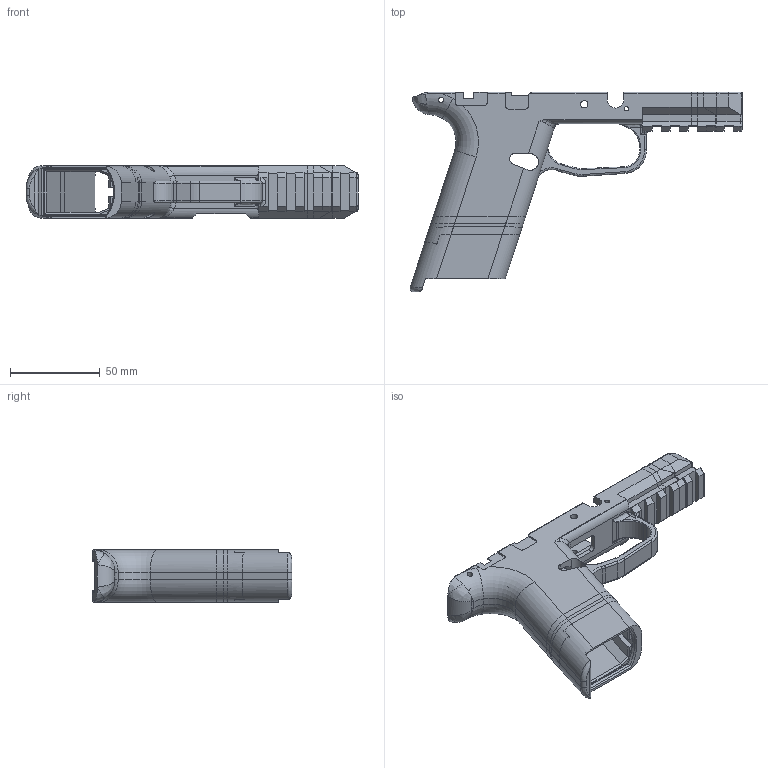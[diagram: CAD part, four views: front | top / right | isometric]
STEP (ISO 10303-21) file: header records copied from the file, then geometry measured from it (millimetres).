
FILE_DESCRIPTION(/* description */ (''),/* implementation_level */ '2;1');
FILE_NAME(/* name */ 'G:/Developer/Repos/TMS-FNS/Beta Tester Remixes/nguyenkvvn/FNS +Safety Assembly.step',/* time_stamp */ '2021-06-16T23:06:52-04:00',/* author */ (''),/* organization */ (''),/* preprocessor_version */ 'ST-DEVELOPER v18.1',/* originating_system */ 'Autodesk Translation Framework v10.9.0.1377',/* authorisation */ '');
FILE_SCHEMA (('AUTOMOTIVE_DESIGN { 1 0 10303 214 3 1 1 }'));
Length unit declared in the file: millimetre
Products named in the file (6): FNS-9/40 - Safety; Main Frame; Compact Size Grip; Standard Size Grip; Standard Size Grip (Stopgap); Compact Size Grip (Stopgap)
Assembly tree (5 placements, depth 2):
  FNS-9/40 - Safety
    Main Frame
    Compact Size Grip
    Standard Size Grip
    Standard Size Grip (Stopgap)
    Compact Size Grip (Stopgap)
Bounding box: 184.47 x 110.97 x 29 mm (x, y, z)
Volume: 95045 mm3; surface area: 56602.7 mm2
Topology: 8 solids, 8 shells, 601 faces, 1669 edges, 1072 vertices
Faces by surface type: plane 381, cylinder 159, bspline 28, torus 27, cone 6
Full cylindrical faces by diameter (mm): 2.5 x2, 3 x2, 4.1 x2
Entity records: 20740 total; most frequent: CARTESIAN_POINT 5165, ORIENTED_EDGE 3334, DIRECTION 3094, EDGE_CURVE 1667, LINE 1172, VECTOR 1172, VERTEX_POINT 1072, AXIS2_PLACEMENT_3D 961
